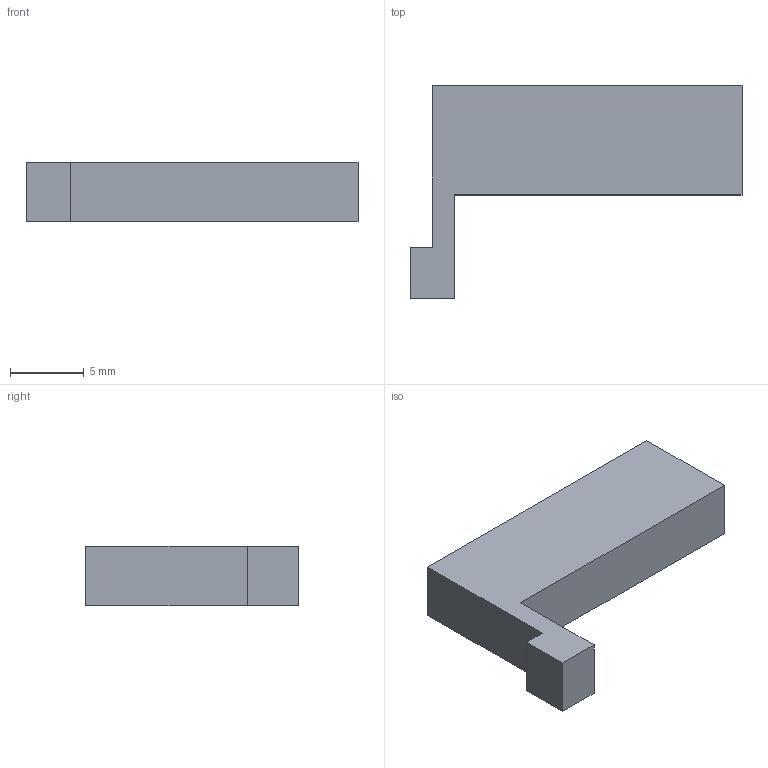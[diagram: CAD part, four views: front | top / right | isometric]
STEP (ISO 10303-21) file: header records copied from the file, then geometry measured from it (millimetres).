
FILE_DESCRIPTION(('STEP AP242 Edition 2','STEP AP242 Edition 2''CAx-IF Rec.Pracs.---Representation and Presentation of Product Manufacturing Information (PMI)---4.0---2014-10-13','STEP AP242 Edition 2''CAx-IF Rec.Pracs.---Representation and Presentation of Product Manufacturing Information (PMI)---4.0---2014-10-13''CAx-IF Rec.Pracs.---3D Tessellated Geometry---0.4---2014-09-14','STEP AP242 Edition 2''CAx-IF Rec.Pracs.---Representation and Presentation of Product Manufacturing Information (PMI)---4.0---2014-10-13''CAx-IF Rec.Pracs.---3D Tessellated Geometry---0.4---2014-09-14''2;1','STEP AP242 Edition 2''CAx-IF Rec.Pracs.---Representation and Presentation of Product Manufacturing Information (PMI)---4.0---2014-10-13''CAx-IF Rec.Pracs.---3D Tessellated Geometry---0.4---2014-09-14''2;1''CAx-IF Rec.Pracs.---User Defined Attributes---1.5---2016-08-15'),'2;1');
FILE_NAME('/vol/tmp/translate-371612670479758043/Case - Button.step','2026-03-18T15:31:29',(''),(''),'ST-DEVELOPER v20','ONSHAPE BY PTC INC, 1.212',' ');
FILE_SCHEMA(('AP242_MANAGED_MODEL_BASED_3D_ENGINEERING_MIM_LF { 1 0 10303 442 3 1 4 }'));
Length unit declared in the file: metre
Products named in the file (1): Button
Bounding box: 22.45 x 14.4 x 4 mm (x, y, z)
Volume: 682.8 mm3; surface area: 636.2 mm2
Topology: 1 solids, 1 shells, 10 faces, 24 edges, 16 vertices
Faces by surface type: plane 10
Entity records: 310 total; most frequent: CARTESIAN_POINT 51, ORIENTED_EDGE 48, DIRECTION 46, EDGE_CURVE 24, LINE 24, VECTOR 24, VERTEX_POINT 16, AXIS2_PLACEMENT_3D 11
